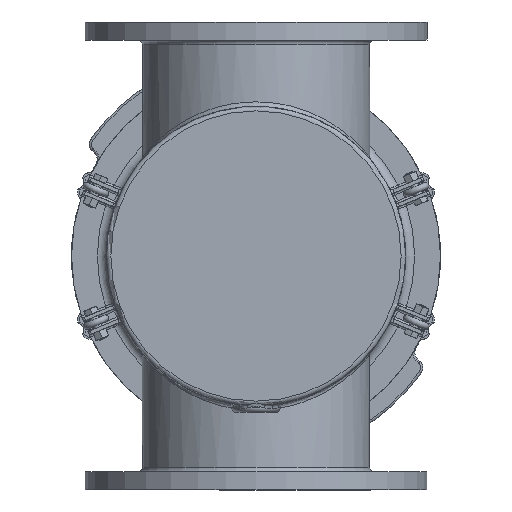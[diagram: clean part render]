
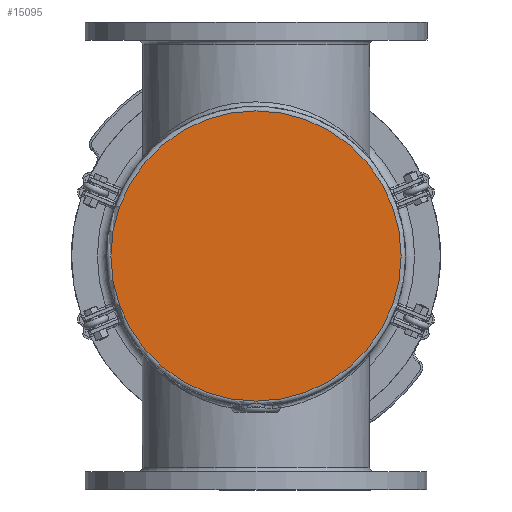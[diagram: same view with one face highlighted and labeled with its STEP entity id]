
A CAD part, front view. The second image highlights one B-rep face of the part: STEP entity #15095.
In plain terms, the highlighted planar face has unit normal (0, -1, 0).
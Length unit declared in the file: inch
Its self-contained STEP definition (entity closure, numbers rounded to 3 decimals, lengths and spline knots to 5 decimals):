
#2119=PLANE('',#16113);
#3383=FACE_OUTER_BOUND('',#4354,.T.);
#4354=EDGE_LOOP('',(#10079));
#5549=CIRCLE('',#16109,8.0625);
#6511=VERTEX_POINT('',#23271);
#7882=EDGE_CURVE('',#6511,#6511,#5549,.T.);
#10079=ORIENTED_EDGE('',*,*,#7882,.F.);
#15095=ADVANCED_FACE('',(#3383),#2119,.F.);
#16109=AXIS2_PLACEMENT_3D('',#23272,#18123,#18124);
#16113=AXIS2_PLACEMENT_3D('',#23277,#18131,#18132);
#18123=DIRECTION('center_axis',(0.,1.,0.));
#18124=DIRECTION('ref_axis',(1.,0.,0.));
#18131=DIRECTION('center_axis',(0.,1.,0.));
#18132=DIRECTION('ref_axis',(0.,0.,1.));
#23271=CARTESIAN_POINT('',(-8.0625,0.,0.));
#23272=CARTESIAN_POINT('Origin',(0.,0.,0.));
#23277=CARTESIAN_POINT('Origin',(0.,0.,0.));
